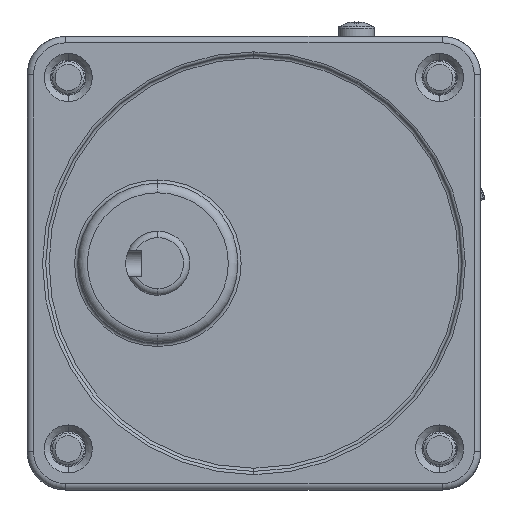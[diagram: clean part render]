
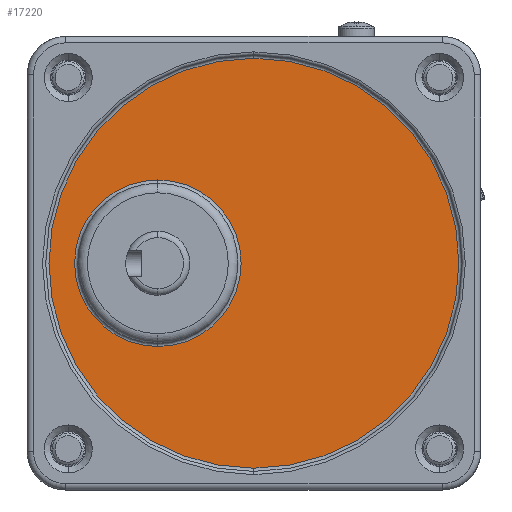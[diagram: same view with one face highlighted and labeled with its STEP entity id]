
A CAD part, front view. The second image highlights one B-rep face of the part: STEP entity #17220.
In plain terms, the highlighted planar face has unit normal (0, -1, 0) as drawn and (0, 0, 1) by its records, which use the part's own axes.
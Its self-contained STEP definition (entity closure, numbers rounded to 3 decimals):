
#1819 = DIRECTION ( 'NONE',  ( 0., 0., -1. ) ) ;
#3522 = DIRECTION ( 'NONE',  ( 1., 0., 0. ) ) ;
#3590 = CIRCLE ( 'NONE', #31855, 32. ) ;
#3865 = FACE_OUTER_BOUND ( 'NONE', #30106, .T. ) ;
#4463 = DIRECTION ( 'NONE',  ( 0., 0., 1. ) ) ;
#4663 = DIRECTION ( 'NONE',  ( -1., 0., 0. ) ) ;
#6127 = FACE_BOUND ( 'NONE', #21865, .T. ) ;
#6308 = DIRECTION ( 'NONE',  ( 0., 0., -1. ) ) ;
#6539 = ORIENTED_EDGE ( 'NONE', *, *, #36829, .F. ) ;
#7130 = AXIS2_PLACEMENT_3D ( 'NONE', #23692, #17849, #3522 ) ;
#7506 = AXIS2_PLACEMENT_3D ( 'NONE', #7847, #4463, #13487 ) ;
#7847 = CARTESIAN_POINT ( 'NONE',  ( 0., 15., 41. ) ) ;
#8857 = EDGE_CURVE ( 'NONE', #14907, #10176, #25019, .T. ) ;
#8938 = PLANE ( 'NONE',  #29427 ) ;
#8992 = DIRECTION ( 'NONE',  ( 0., 0., 1. ) ) ;
#10136 = CIRCLE ( 'NONE', #7130, 32. ) ;
#10176 = VERTEX_POINT ( 'NONE', #27053 ) ;
#11115 = CIRCLE ( 'NONE', #7506, 13. ) ;
#13487 = DIRECTION ( 'NONE',  ( -1., 0., 0. ) ) ;
#14907 = VERTEX_POINT ( 'NONE', #29978 ) ;
#15158 = VERTEX_POINT ( 'NONE', #34316 ) ;
#16741 = EDGE_CURVE ( 'NONE', #15158, #34580, #10136, .T. ) ;
#17220 = ADVANCED_FACE ( 'NONE', ( #3865, #6127 ), #8938, .F. ) ;
#17710 = ORIENTED_EDGE ( 'NONE', *, *, #8857, .F. ) ;
#17849 = DIRECTION ( 'NONE',  ( 0., 0., -1. ) ) ;
#18799 = CARTESIAN_POINT ( 'NONE',  ( 0., 0., 41. ) ) ;
#20111 = DIRECTION ( 'NONE',  ( 1., 0., 0. ) ) ;
#20442 = DIRECTION ( 'NONE',  ( 0., -1., 0. ) ) ;
#21865 = EDGE_LOOP ( 'NONE', ( #6539, #17710 ) ) ;
#22625 = CARTESIAN_POINT ( 'NONE',  ( -32., 0., 41. ) ) ;
#22762 = EDGE_CURVE ( 'NONE', #34580, #15158, #3590, .T. ) ;
#23692 = CARTESIAN_POINT ( 'NONE',  ( 0., 0., 41. ) ) ;
#25019 = CIRCLE ( 'NONE', #30450, 13. ) ;
#27053 = CARTESIAN_POINT ( 'NONE',  ( -13., 15., 41. ) ) ;
#27562 = ORIENTED_EDGE ( 'NONE', *, *, #16741, .F. ) ;
#28964 = CARTESIAN_POINT ( 'NONE',  ( 0., 15., 41. ) ) ;
#29427 = AXIS2_PLACEMENT_3D ( 'NONE', #32126, #6308, #20442 ) ;
#29978 = CARTESIAN_POINT ( 'NONE',  ( 13., 15., 41. ) ) ;
#30106 = EDGE_LOOP ( 'NONE', ( #27562, #35807 ) ) ;
#30450 = AXIS2_PLACEMENT_3D ( 'NONE', #28964, #8992, #20111 ) ;
#31855 = AXIS2_PLACEMENT_3D ( 'NONE', #18799, #1819, #4663 ) ;
#32126 = CARTESIAN_POINT ( 'NONE',  ( 32., 0., 41. ) ) ;
#34316 = CARTESIAN_POINT ( 'NONE',  ( 32., 0., 41. ) ) ;
#34580 = VERTEX_POINT ( 'NONE', #22625 ) ;
#35807 = ORIENTED_EDGE ( 'NONE', *, *, #22762, .F. ) ;
#36829 = EDGE_CURVE ( 'NONE', #10176, #14907, #11115, .T. ) ;
